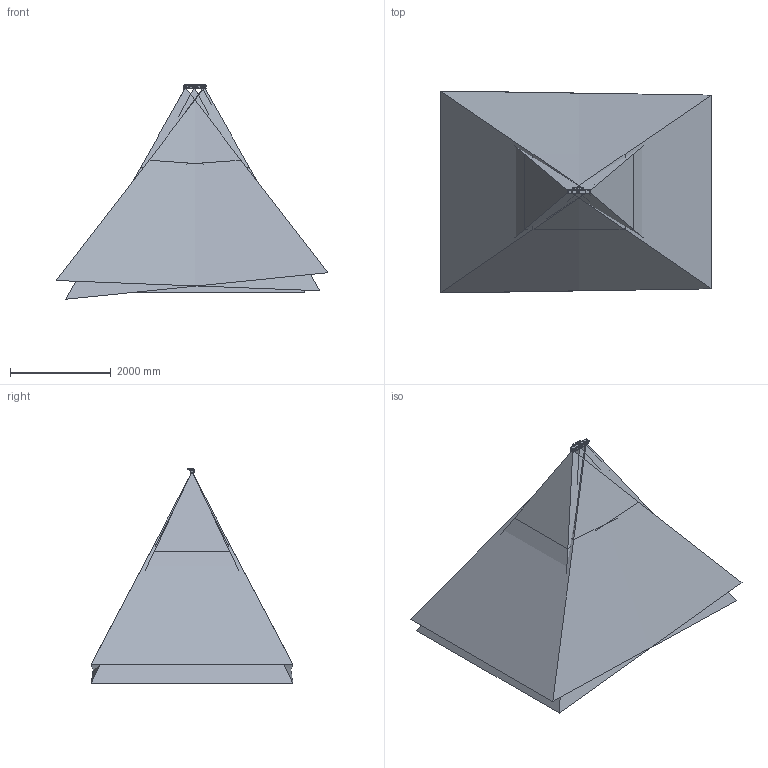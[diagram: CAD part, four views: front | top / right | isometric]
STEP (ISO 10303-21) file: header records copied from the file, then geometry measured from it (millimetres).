
FILE_DESCRIPTION (( 'STEP AP214' ), '1' );
FILE_NAME ('Mech-Eye LSR L 安装模型（不带标签 带角件 带FOV）.STEP', '2022-06-25T05:53:54', ( '' ), ( '' ), 'SwSTEP 2.0', 'SolidWorks 2017', '' );
FILE_SCHEMA (( 'AUTOMOTIVE_DESIGN' ));
Length unit declared in the file: millimetre
Products named in the file (1): Mech-Eye LSR L 安装模型（不带标签 带角件 带FOV）
Bounding box: 5402.89 x 4013.51 x 4265.82 mm (x, y, z)
Volume: 90538982297.3 mm3; surface area: 219053346.5 mm2
Topology: 39 solids, 76 shells, 4034 faces, 10305 edges, 6607 vertices
Faces by surface type: plane 1999, cylinder 954, bspline 887, cone 183, torus 11
Full cylindrical faces by diameter (mm): 0.8 x16, 1.2 x8, 2 x8, 2.05 x18, 2.3 x2, 2.5 x47, 2.9 x18, 3.2 x12, 4.2 x10, 4.4 x18, 5.5 x4, 5.8 x2, 6 x16, 7.1 x10, 9 x2, 10 x4, 11.4 x2, 13 x2, 27 x1, 27.5 x2, 42 x2, 42.2 x1, 43.6 x1, 48.4 x1
Entity records: 232748 total; most frequent: CARTESIAN_POINT 117647, ORIENTED_EDGE 19570, DIRECTION 14495, EDGE_CURVE 9785, VERTEX_POINT 6486, LINE 5555, VECTOR 5555, EDGE_LOOP 4725
